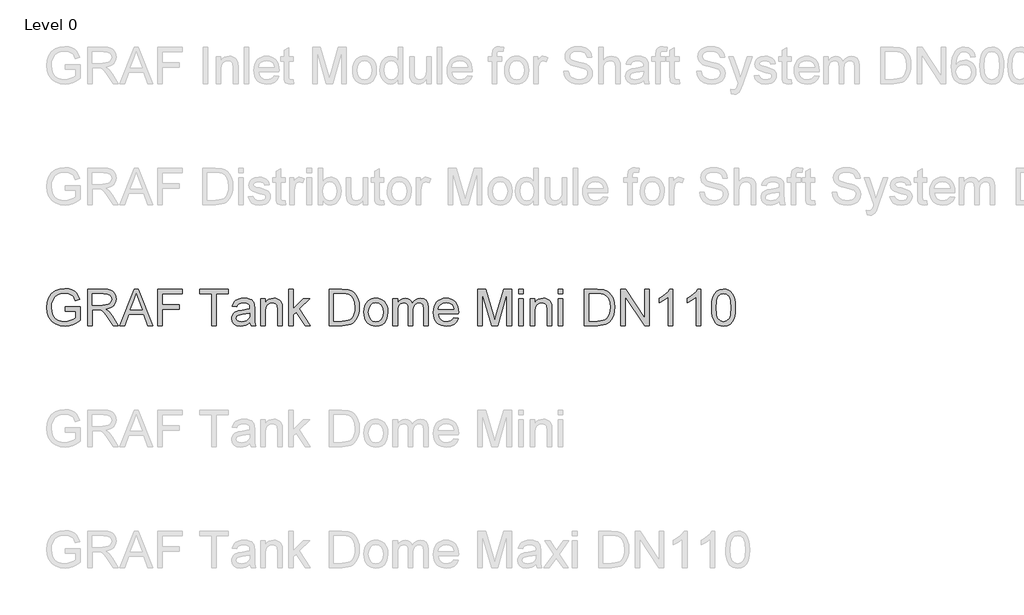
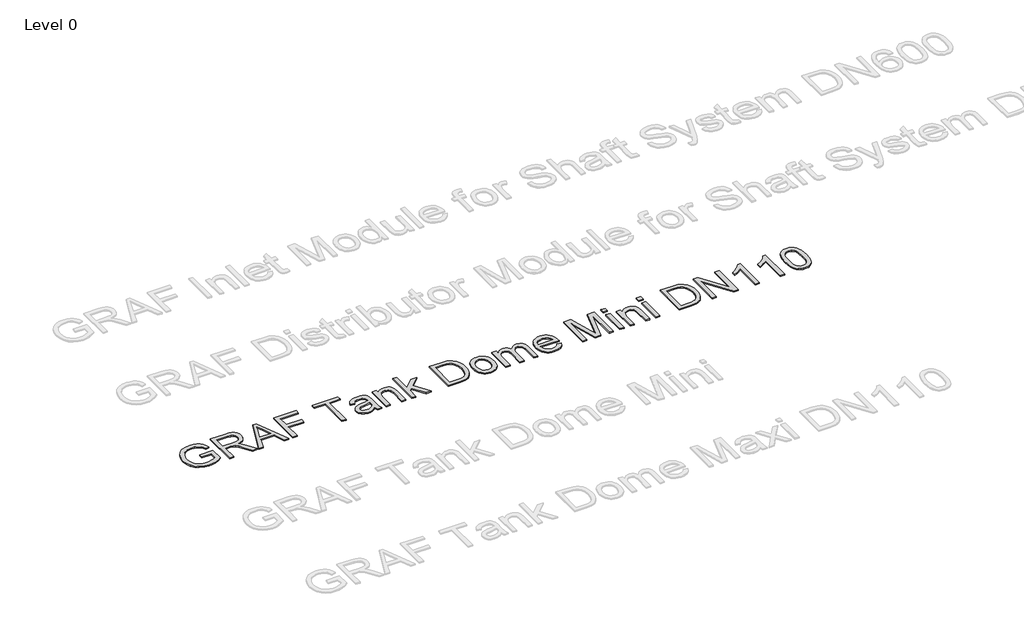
# One storey, part 10 of 25: 1 proxy.
"""IFC4 building model written with IfcOpenShell, lengths in millimetres."""

from ifc_helpers import new_model, si_unit, origin, origin_with_axes, place, context, project, spatial, polyline, outline, extrude, element, save

model = new_model("IFC4")

# Units and contexts
model_context = context("Model", 3, world=origin())
ifc_project = project(units=[si_unit("LENGTHUNIT", "METRE", prefix="MILLI")], contexts=[model_context])

# Site, building, storey
site = spatial("IfcSite", under=ifc_project)
building = spatial("IfcBuilding", under=site)
storey = spatial("IfcBuildingStorey", under=building, Name="Level 0", Elevation=0.0)

# Proxy
placement = place(None, origin())
element("IfcBuildingElementProxy", 1, Name="300mm Arial", ObjectType="300mm Arial", at=placement, inside=storey, context=model_context, shape_type="SweptSolid", body=[
    extrude(outline(polyline([(-15240.9940387, -1083.2545597), (-15240.9940387, -1045.5834434), (-15118.5629107, -1045.5834434), (-15118.5629107, -1158.2289103), (-15148.3153671, -1178.9222726), (-15179.0059225, -1193.7663111), (-15210.5610007, -1202.7058436), (-15242.9070251, -1205.6856877), (-15285.1674693, -1200.949207), (-15323.3628175, -1186.739765), (-15355.0926395, -1163.5540022), (-15377.9565055, -1131.8885595), (-15391.7796715, -1093.9047435), (-15396.3873935, -1051.7638609), (-15391.7980656, -1009.3194757), (-15378.0300819, -969.8365406), (-15355.6536596, -936.717964), (-15325.2390156, -913.3666543), (-15288.1932987, -899.5158972), (-15245.9236575, -894.8989782), (-15214.8928112, -897.5753197), (-15186.9889618, -905.6043443), (-15163.4904994, -918.4066377), (-15145.6758138, -935.4027859), (-15132.4964413, -957.4113262), (-15122.9039183, -985.2507962), (-15157.6319786, -995.0364573), (-15165.3850917, -975.1800266), (-15174.8120678, -960.1980323), (-15187.2832674, -948.9040551), (-15204.169051, -940.1116754), (-15224.3013932, -934.4554897), (-15246.5122687, -932.5700945), (-15272.5123287, -934.6026425), (-15294.7415982, -940.7002866), (-15313.1173039, -950.0996716), (-15327.5566722, -962.0374423), (-15346.9440533, -991.0633317), (-15355.7732212, -1019.50061), (-15358.7162772, -1050.2187566), (-15355.175413, -1086.2436009), (-15344.5528204, -1115.8856927), (-15327.1703961, -1138.9334997), (-15303.3500369, -1155.1754898), (-15275.4737787, -1164.804801), (-15245.9236575, -1168.0145714), (-15219.831627, -1165.5957473), (-15194.3833899, -1158.3392749), (-15172.2828791, -1148.3420817), (-15156.234027, -1137.701095), (-15156.234027, -1083.2545597), (-15240.9940387, -1083.2545597)])), origin_with_axes(), (0.0, 0.0, 1.0), 10.0),
    extrude(outline(polyline([(-15057.3473467, -1200.9767982), (-15057.3473467, -899.6078677), (-14927.4850024, -899.6078677), (-14892.5821982, -901.6404158), (-14867.1891434, -907.7380598), (-14848.6294968, -918.9952489), (-14834.2269167, -936.5064318), (-14824.9838815, -958.2206666), (-14821.9028698, -982.087011), (-14827.0072325, -1011.7750881), (-14842.3203206, -1036.3863935), (-14853.9200997, -1046.4157764), (-14868.3019865, -1054.4310054), (-14905.4120827, -1064.4190016), (-14884.0013506, -1080.532233), (-14853.467145, -1119.3069952), (-14803.2144645, -1200.9767982), (-14846.9924219, -1200.9767982), (-14886.2086426, -1138.5104354), (-14914.5355562, -1097.1604991), (-14934.4379722, -1077.6259652), (-14952.3538253, -1070.4522663), (-14974.2060158, -1069.1278911), (-15019.6762304, -1069.1278911), (-15019.6762304, -1200.9767982), (-15057.3473467, -1200.9767982)]), holes=[polyline([(-15019.6762304, -1031.4567748), (-14935.3576771, -1031.4567748), (-14911.1418448, -1030.1232026), (-14892.3522719, -1026.1224859), (-14878.2072092, -1019.1879103), (-14867.9249074, -1009.0527613), (-14861.6617165, -996.7930938), (-14859.5739861, -983.4849626), (-14863.5563087, -965.109257), (-14875.5032765, -950.3020067), (-14896.058683, -940.5347397), (-14925.8663217, -937.278984), (-15019.6762304, -937.278984), (-15019.6762304, -1031.4567748)])]), origin_with_axes(), (0.0, 0.0, 1.0), 10.0),
    extrude(outline(polyline([(-14791.0743586, -1200.9767982), (-14670.7769462, -899.6078677), (-14638.6976362, -899.6078677), (-14518.4002238, -1200.9767982), (-14558.2050557, -1200.9767982), (-14592.7123868, -1106.7990074), (-14716.835772, -1106.7990074), (-14751.2695268, -1200.9767982), (-14791.0743586, -1200.9767982)]), holes=[polyline([(-14703.003409, -1069.1278911), (-14606.4711735, -1069.1278911), (-14633.6208647, -995.0364573), (-14654.7372912, -937.278984), (-14673.499273, -988.5617342), (-14703.003409, -1069.1278911)])]), origin_with_axes(), (0.0, 0.0, 1.0), 10.0),
    extrude(outline(polyline([(-14478.1539335, -1200.9767982), (-14478.1539335, -899.6078677), (-14275.6716834, -899.6078677), (-14275.6716834, -937.278984), (-14440.4828172, -937.278984), (-14440.4828172, -1026.7478853), (-14299.2161311, -1026.7478853), (-14299.2161311, -1064.4190016), (-14440.4828172, -1064.4190016), (-14440.4828172, -1200.9767982), (-14478.1539335, -1200.9767982)])), origin_with_axes(), (0.0, 0.0, 1.0), 10.0),
    extrude(outline(polyline([(-14030.8094274, -1200.9767982), (-14030.8094274, -937.278984), (-14129.6961077, -937.278984), (-14129.6961077, -899.6078677), (-13894.2516308, -899.6078677), (-13894.2516308, -937.278984), (-13993.1383111, -937.278984), (-13993.1383111, -1200.9767982), (-14030.8094274, -1200.9767982)])), origin_with_axes(), (0.0, 0.0, 1.0), 10.0),
    extrude(outline(polyline([(-13715.3138283, -1172.7234609), (-13733.312455, -1188.1561106), (-13751.8445105, -1198.2544714), (-13771.3330592, -1203.8278836), (-13792.2011653, -1205.6856877), (-13823.6826671, -1201.2159215), (-13846.905218, -1187.8066228), (-13861.2250247, -1167.4443543), (-13865.9982936, -1142.1156789), (-13864.1956718, -1126.4990883), (-13858.7878065, -1112.3172373), (-13850.4460822, -1100.1771315), (-13839.8418837, -1090.685776), (-13813.4647447, -1078.324941), (-13780.8703999, -1072.6595583), (-13742.353155, -1066.6998699), (-13715.5345575, -1059.710112), (-13715.3138283, -1051.3224025), (-13717.9073964, -1034.5101954), (-13725.6881006, -1023.5105237), (-13743.088919, -1015.3435434), (-13767.3323425, -1012.6212166), (-13789.7731442, -1014.4330355), (-13805.4449172, -1019.868492), (-13816.1318891, -1029.9208675), (-13823.6182877, -1045.5834434), (-13861.289404, -1040.8745539), (-13854.7503016, -1020.2731621), (-13844.9922316, -1004.0863544), (-13831.1046863, -991.7071252), (-13812.1771577, -982.5284694), (-13789.0281831, -976.8446926), (-13762.4763001, -974.9501003), (-13737.009669, -976.6239634), (-13716.8221445, -981.6455527), (-13701.601027, -989.1963306), (-13691.0336167, -998.4577598), (-13684.0254646, -1009.9080869), (-13679.482122, -1024.0255585), (-13677.642712, -1056.9877853), (-13677.642712, -1103.8559515), (-13675.7297257, -1169.3021584), (-13668.224933, -1200.9767982), (-13705.8960493, -1200.9767982), (-13715.3138283, -1172.7234609)]), holes=[polyline([(-13715.3138283, -1097.3812283), (-13776.0879339, -1108.932723), (-13808.4983377, -1115.0395641), (-13823.1768293, -1124.972378), (-13828.3271773, -1139.4669286), (-13825.522077, -1150.6689353), (-13817.1067764, -1159.8475911), (-13803.2652163, -1165.9728263), (-13784.1813378, -1168.0145714), (-13763.9478281, -1165.7612942), (-13746.0687631, -1159.0014625), (-13731.5742125, -1149.0410575), (-13721.4942459, -1137.1860602), (-13717.0244796, -1124.972378), (-13715.5345575, -1108.0498062), (-13715.3138283, -1097.3812283)])]), origin_with_axes(), (0.0, 0.0, 1.0), 10.0),
    extrude(outline(polyline([(-13625.8449271, -1200.9767982), (-13625.8449271, -979.6589899), (-13588.1738108, -979.6589899), (-13588.1738108, -1010.5610775), (-13575.0864088, -994.981275), (-13559.3686506, -983.8528446), (-13541.0205361, -977.1757864), (-13520.0420653, -974.9501003), (-13501.4732216, -976.7435251), (-13484.4678764, -982.1237992), (-13470.2860255, -990.4195382), (-13460.1876647, -1000.9593574), (-13448.8936874, -1028.6608716), (-13446.9071247, -1065.0811892), (-13446.9071247, -1200.9767982), (-13484.578241, -1200.9767982), (-13484.578241, -1070.1579607), (-13488.9192485, -1036.8278519), (-13494.9249221, -1026.9042351), (-13504.2599277, -1019.2063044), (-13516.2252896, -1014.2674886), (-13530.122032, -1012.6212166), (-13552.1857546, -1016.3184307), (-13570.9937216, -1027.4100729), (-13578.5100106, -1036.4645685), (-13583.8787885, -1048.8391991), (-13588.1738108, -1083.5488653), (-13588.1738108, -1200.9767982), (-13625.8449271, -1200.9767982)])), origin_with_axes(), (0.0, 0.0, 1.0), 10.0),
    extrude(outline(polyline([(-13395.1093397, -1200.9767982), (-13395.1093397, -899.6078677), (-13357.4382234, -899.6078677), (-13357.4382234, -1061.549522), (-13272.9725173, -979.6589899), (-13220.8804268, -979.6589899), (-13306.3762025, -1062.5795916), (-13216.1715373, -1200.9767982), (-13260.1702239, -1200.9767982), (-13333.3787409, -1088.7727896), (-13357.4382234, -1112.0965081), (-13357.4382234, -1200.9767982), (-13395.1093397, -1200.9767982)])), origin_with_axes(), (0.0, 0.0, 1.0), 10.0),
    extrude(outline(polyline([(-13060.7781825, -1200.9767982), (-13060.7781825, -899.6078677), (-12956.8147307, -899.6078677), (-12903.030383, -903.9488753), (-12879.0076887, -912.3181907), (-12858.7373908, -925.5067602), (-12837.8968757, -948.4625967), (-12823.0528372, -977.0102395), (-12814.1684871, -1010.5978657), (-12811.207037, -1048.6736522), (-12813.2119939, -1081.0196766), (-12819.2268645, -1109.484546), (-12828.3871262, -1133.7187724), (-12839.8282562, -1153.372868), (-12852.9984316, -1168.8882911), (-12867.3458295, -1180.7065002), (-12883.8177458, -1189.4712888), (-12903.3614768, -1195.8264502), (-12951.8115355, -1200.9767982), (-13060.7781825, -1200.9767982)]), holes=[polyline([(-13023.1070662, -1163.3056819), (-12956.4468487, -1163.3056819), (-12928.8740931, -1161.9445185), (-12907.9600017, -1157.8610283), (-12892.1778641, -1151.2943347), (-12880.0009701, -1142.4835609), (-12866.9135681, -1126.1771915), (-12857.0819218, -1105.069962), (-12850.9290954, -1079.069902), (-12848.8781533, -1048.085041), (-12852.8972641, -1007.0294103), (-12864.9545965, -976.7159339), (-12882.7692821, -955.893813), (-12904.0604526, -943.3122488), (-12925.7287021, -938.7873002), (-12957.4769183, -937.278984), (-13023.1070662, -937.278984), (-13023.1070662, -1163.3056819)])]), origin_with_axes(), (0.0, 0.0, 1.0), 10.0),
    extrude(outline(polyline([(-12773.5359207, -1090.317894), (-12771.4987741, -1061.6552881), (-12765.3873345, -1036.9566106), (-12755.2016018, -1016.2218617), (-12740.9415759, -999.4510412), (-12726.5849811, -988.7318796), (-12710.7384641, -981.0753356), (-12693.4020251, -976.4814091), (-12674.575664, -974.9501003), (-12653.7926305, -976.8148022), (-12635.0007584, -982.4089078), (-12618.2000475, -991.7324171), (-12603.3904979, -1004.7853302), (-12591.3032751, -1021.1261885), (-12582.6695445, -1040.3135338), (-12577.4893062, -1062.3473661), (-12575.7625601, -1087.2276853), (-12578.8159806, -1125.2850777), (-12587.9762423, -1154.2557848), (-12602.9766307, -1175.9516255), (-12623.5504313, -1192.1844185), (-12647.9869928, -1202.3103704), (-12674.575664, -1205.6856877), (-12695.6622001, -1203.8278836), (-12714.6288162, -1198.2544714), (-12731.4755123, -1188.965451), (-12746.2022884, -1175.9608225), (-12758.1607526, -1159.461315), (-12766.7025126, -1139.6876578), (-12771.8275687, -1116.6398508), (-12773.5359207, -1090.317894)]), holes=[polyline([(-12735.8648044, -1090.2443176), (-12731.5054027, -1124.3377815), (-12718.4271978, -1148.6271903), (-12698.7455111, -1163.1677261), (-12674.575664, -1168.0145714), (-12650.5161815, -1163.140135), (-12630.871283, -1148.5168257), (-12617.793078, -1123.9055202), (-12613.4336764, -1089.0670952), (-12617.8206692, -1055.9669127), (-12630.9816476, -1032.0085978), (-12650.6541372, -1017.4680619), (-12674.575664, -1012.6212166), (-12698.7455111, -1017.4496678), (-12718.4271978, -1031.9350214), (-12731.5054027, -1056.1692478), (-12735.8648044, -1090.2443176)])]), origin_with_axes(), (0.0, 0.0, 1.0), 10.0),
    extrude(outline(polyline([(-12533.3825542, -1200.9767982), (-12533.3825542, -979.6589899), (-12495.7114379, -979.6589899), (-12495.7114379, -1016.0793074), (-12484.3806725, -999.3498737), (-12469.8125455, -986.2440776), (-12452.5036976, -977.7735947), (-12432.9507696, -974.9501003), (-12411.9998899, -977.828777), (-12395.2060768, -986.4648068), (-12382.6613008, -1000.2879728), (-12374.4575323, -1018.7280578), (-12360.7263368, -999.5752014), (-12345.0637609, -985.8945897), (-12327.4698045, -977.6862227), (-12307.9444676, -974.9501003), (-12279.626751, -979.50264), (-12258.6850684, -993.1602591), (-12245.7448193, -1016.2908395), (-12241.4314029, -1049.2622634), (-12241.4314029, -1200.9767982), (-12279.1025192, -1200.9767982), (-12279.1025192, -1065.4490712), (-12282.5973981, -1033.9951606), (-12287.5086228, -1025.3223425), (-12295.2525388, -1018.5073286), (-12305.2129438, -1014.0927446), (-12316.7736355, -1012.6212166), (-12337.1818892, -1016.3920071), (-12353.8193524, -1027.7043784), (-12364.8834034, -1047.3308829), (-12368.5714204, -1076.0440726), (-12368.5714204, -1200.9767982), (-12406.2425367, -1200.9767982), (-12406.2425367, -1061.2552164), (-12408.4222375, -1039.9548489), (-12414.96134, -1024.7613225), (-12426.4668494, -1015.6562431), (-12443.545771, -1012.6212166), (-12458.0587157, -1014.6445676), (-12471.4312262, -1020.7146205), (-12482.4676861, -1030.6842226), (-12489.9724788, -1044.406221), (-12494.2766981, -1063.4441143), (-12495.7114379, -1089.3614008), (-12495.7114379, -1200.9767982), (-12533.3825542, -1200.9767982)])), origin_with_axes(), (0.0, 0.0, 1.0), 10.0),
    extrude(outline(polyline([(-12029.972832, -1135.0523446), (-11993.0374797, -1139.7612342), (-12006.3456109, -1167.5915071), (-12027.5815991, -1188.3952339), (-12056.2671976, -1201.3630743), (-12091.92416, -1205.6856877), (-12115.2984623, -1203.8209859), (-12136.1251817, -1198.2268803), (-12154.4043184, -1188.9033709), (-12170.1358722, -1175.8504579), (-12182.7864143, -1159.4314246), (-12191.8225158, -1140.0095545), (-12197.2441767, -1117.5848477), (-12199.051397, -1092.157304), (-12197.2257826, -1065.8675369), (-12191.7489394, -1042.6955698), (-12182.6208674, -1022.6414025), (-12169.8415666, -1005.7050351), (-12154.1513995, -992.2497512), (-12136.2907286, -982.638834), (-12116.259554, -976.8722838), (-12094.0578756, -974.9501003), (-12072.5712678, -976.8676852), (-12053.1402007, -982.6204399), (-12035.7646742, -992.2083644), (-12020.4446884, -1005.6314587), (-12007.9389998, -1022.5310379), (-11999.0063651, -1042.548417), (-11993.6467843, -1065.6835959), (-11991.8602573, -1091.9365748), (-11992.0809865, -1102.0901179), (-12161.3802807, -1102.0901179), (-12154.8595723, -1130.2882728), (-12139.7120312, -1151.0184232), (-12117.8506436, -1163.7655344), (-12091.188396, -1168.0145714), (-12071.1388273, -1166.0464027), (-12054.2530437, -1160.1418967), (-12040.5310453, -1149.9331713), (-12029.972832, -1135.0523446)]), holes=[polyline([(-12161.3802807, -1064.4190016), (-12029.5313736, -1064.4190016), (-12034.6265393, -1044.5165856), (-12044.6145354, -1030.2795524), (-12066.5770906, -1017.0358006), (-12094.2050284, -1012.6212166), (-12119.5980831, -1016.1436868), (-12140.594948, -1026.7110971), (-12155.1906661, -1043.1830134), (-12161.3802807, -1064.4190016)])]), origin_with_axes(), (0.0, 0.0, 1.0), 10.0),
    extrude(outline(polyline([(-11831.758013, -1200.9767982), (-11831.758013, -899.6078677), (-11766.9372055, -899.6078677), (-11705.2801831, -1112.0229317), (-11692.8457717, -1156.3895004), (-11679.3812906, -1108.3441118), (-11618.7543378, -899.6078677), (-11553.9335303, -899.6078677), (-11553.9335303, -1200.9767982), (-11591.6046466, -1200.9767982), (-11591.6046466, -937.278984), (-11667.3147612, -1200.9767982), (-11718.3767821, -1200.9767982), (-11794.0868967, -937.278984), (-11794.0868967, -1200.9767982), (-11831.758013, -1200.9767982)])), origin_with_axes(), (0.0, 0.0, 1.0), 10.0),
    extrude(outline(polyline([(-11492.7179663, -937.278984), (-11492.7179663, -899.6078677), (-11455.04685, -899.6078677), (-11455.04685, -937.278984), (-11492.7179663, -937.278984)])), origin_with_axes(), (0.0, 0.0, 1.0), 10.0),
    extrude(outline(polyline([(-11492.7179663, -1200.9767982), (-11492.7179663, -979.6589899), (-11455.04685, -979.6589899), (-11455.04685, -1200.9767982), (-11492.7179663, -1200.9767982)])), origin_with_axes(), (0.0, 0.0, 1.0), 10.0),
    extrude(outline(polyline([(-11398.5401755, -1200.9767982), (-11398.5401755, -979.6589899), (-11360.8690592, -979.6589899), (-11360.8690592, -1010.5610775), (-11347.7816572, -994.981275), (-11332.063899, -983.8528446), (-11313.7157845, -977.1757864), (-11292.7373137, -974.9501003), (-11274.16847, -976.7435251), (-11257.1631248, -982.1237992), (-11242.9812739, -990.4195382), (-11232.8829131, -1000.9593574), (-11221.5889358, -1028.6608716), (-11219.6023731, -1065.0811892), (-11219.6023731, -1200.9767982), (-11257.2734894, -1200.9767982), (-11257.2734894, -1070.1579607), (-11261.6144969, -1036.8278519), (-11267.6201705, -1026.9042351), (-11276.9551761, -1019.2063044), (-11288.920538, -1014.2674886), (-11302.8172804, -1012.6212166), (-11324.881003, -1016.3184307), (-11343.68897, -1027.4100729), (-11351.205259, -1036.4645685), (-11356.5740369, -1048.8391991), (-11360.8690592, -1083.5488653), (-11360.8690592, -1200.9767982), (-11398.5401755, -1200.9767982)])), origin_with_axes(), (0.0, 0.0, 1.0), 10.0),
    extrude(outline(polyline([(-11167.8045881, -937.278984), (-11167.8045881, -899.6078677), (-11130.1334718, -899.6078677), (-11130.1334718, -937.278984), (-11167.8045881, -937.278984)])), origin_with_axes(), (0.0, 0.0, 1.0), 10.0),
    extrude(outline(polyline([(-11167.8045881, -1200.9767982), (-11167.8045881, -979.6589899), (-11130.1334718, -979.6589899), (-11130.1334718, -1200.9767982), (-11167.8045881, -1200.9767982)])), origin_with_axes(), (0.0, 0.0, 1.0), 10.0),
    extrude(outline(polyline([(-10951.1956694, -1200.9767982), (-10951.1956694, -899.6078677), (-10847.2322175, -899.6078677), (-10793.4478698, -903.9488753), (-10769.4251756, -912.3181907), (-10749.1548776, -925.5067602), (-10728.3143626, -948.4625967), (-10713.4703241, -977.0102395), (-10704.5859739, -1010.5978657), (-10701.6245239, -1048.6736522), (-10703.6294807, -1081.0196766), (-10709.6443513, -1109.484546), (-10718.804613, -1133.7187724), (-10730.2457431, -1153.372868), (-10743.4159185, -1168.8882911), (-10757.7633163, -1180.7065002), (-10774.2352326, -1189.4712888), (-10793.7789636, -1195.8264502), (-10842.2290224, -1200.9767982), (-10951.1956694, -1200.9767982)]), holes=[polyline([(-10913.5245531, -1163.3056819), (-10846.8643355, -1163.3056819), (-10819.29158, -1161.9445185), (-10798.3774886, -1157.8610283), (-10782.595351, -1151.2943347), (-10770.4184569, -1142.4835609), (-10757.331055, -1126.1771915), (-10747.4994086, -1105.069962), (-10741.3465823, -1079.069902), (-10739.2956402, -1048.085041), (-10743.314751, -1007.0294103), (-10755.3720833, -976.7159339), (-10773.186769, -955.893813), (-10794.4779394, -943.3122488), (-10816.1461889, -938.7873002), (-10847.8944051, -937.278984), (-10913.5245531, -937.278984), (-10913.5245531, -1163.3056819)])]), origin_with_axes(), (0.0, 0.0, 1.0), 10.0),
    extrude(outline(polyline([(-10649.8267389, -1200.9767982), (-10649.8267389, -899.6078677), (-10609.5068723, -899.6078677), (-10452.0533783, -1138.3632826), (-10452.0533783, -899.6078677), (-10414.382262, -899.6078677), (-10414.382262, -1200.9767982), (-10454.7021287, -1200.9767982), (-10612.1556226, -962.1478069), (-10612.1556226, -1200.9767982), (-10649.8267389, -1200.9767982)])), origin_with_axes(), (0.0, 0.0, 1.0), 10.0),
    extrude(outline(polyline([(-10221.3177909, -1200.9767982), (-10258.9889073, -1200.9767982), (-10258.9889073, -966.1209325), (-10294.6734608, -991.5415783), (-10334.3311399, -1010.5610775), (-10334.3311399, -974.9501003), (-10304.7442304, -958.8552631), (-10279.1120524, -939.7070052), (-10258.9061338, -919.3447368), (-10245.5980026, -899.6078677), (-10221.3177909, -899.6078677), (-10221.3177909, -1200.9767982)])), origin_with_axes(), (0.0, 0.0, 1.0), 10.0),
    extrude(outline(polyline([(-9990.5822036, -1200.9767982), (-10028.2533199, -1200.9767982), (-10028.2533199, -966.1209325), (-10063.9378734, -991.5415783), (-10103.5955525, -1010.5610775), (-10103.5955525, -974.9501003), (-10074.008643, -958.8552631), (-10048.376465, -939.7070052), (-10028.1705464, -919.3447368), (-10014.8624153, -899.6078677), (-9990.5822036, -899.6078677), (-9990.5822036, -1200.9767982)])), origin_with_axes(), (0.0, 0.0, 1.0), 10.0),
    extrude(outline(polyline([(-9901.1133023, -1052.7203541), (-9898.3449903, -1004.4818275), (-9890.0400543, -966.0105679), (-9876.2812677, -936.717964), (-9857.1514039, -916.0154047), (-9832.5125073, -903.709752), (-9802.226622, -899.6078677), (-9779.0132681, -902.0358889), (-9758.2279354, -909.3199524), (-9740.8455111, -921.1749497), (-9727.8408826, -937.3157722), (-9718.0184333, -957.6044643), (-9710.1825468, -981.9030701), (-9705.050593, -1012.7591724), (-9703.3399417, -1052.7203541), (-9706.0806626, -1100.6829692), (-9714.3028252, -1139.0622584), (-9727.9788384, -1168.3824534), (-9747.081111, -1189.1677861), (-9771.7751899, -1201.5562123), (-9802.226622, -1205.6856877), (-9822.9751666, -1203.892263), (-9841.3692663, -1198.5119888), (-9857.4089213, -1189.5448652), (-9871.0941315, -1176.9908921), (-9884.2275188, -1154.2971715), (-9893.6085096, -1126.0208417), (-9899.2371042, -1092.1619025), (-9901.1133023, -1052.7203541)]), holes=[polyline([(-9863.442186, -1052.6467777), (-9859.0276021, -1111.9033701), (-9853.5093722, -1132.1713688), (-9845.7838503, -1146.1991691), (-9826.0653753, -1162.5607208), (-9802.226622, -1168.0145714), (-9778.3878688, -1162.5423267), (-9758.6693938, -1146.1255927), (-9750.9438719, -1132.0747997), (-9745.425642, -1111.8113996), (-9741.011058, -1052.6467777), (-9745.2784892, -994.7237576), (-9750.6127781, -974.5224375), (-9758.0807826, -960.1612441), (-9777.7624694, -942.9995491), (-9802.6680804, -937.278984), (-9826.2493163, -942.3189674), (-9845.1952391, -957.4389174), (-9853.1782784, -973.0739022), (-9858.8804493, -994.1535405), (-9863.442186, -1052.6467777)])]), origin_with_axes(), (0.0, 0.0, 1.0), 10.0),
])

save(model, "model.ifc")
